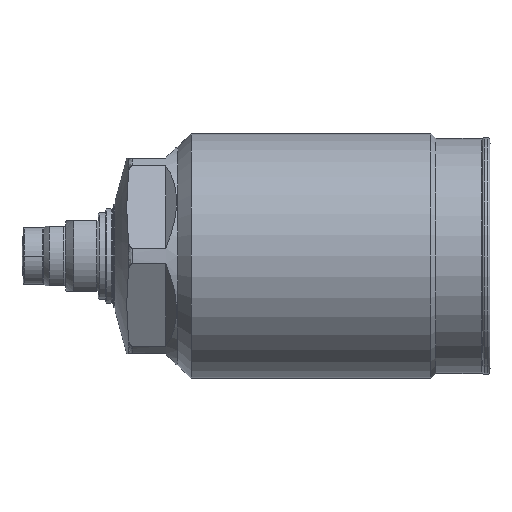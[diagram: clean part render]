
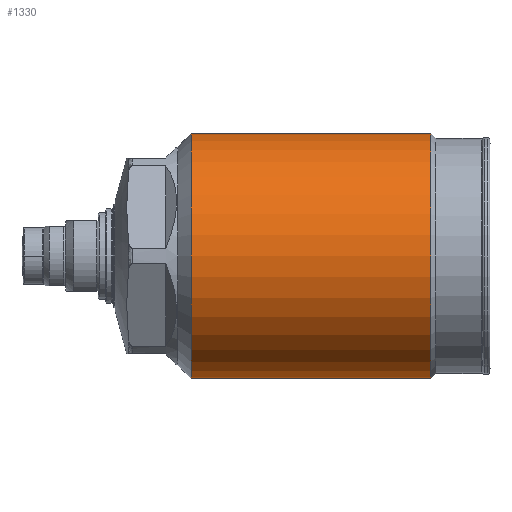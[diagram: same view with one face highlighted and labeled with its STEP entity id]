
A CAD part, left-side view. The second image highlights one B-rep face of the part: STEP entity #1330.
In plain terms, the highlighted cylindrical face has radius 22.5 mm (diameter 45 mm), a partial arc.
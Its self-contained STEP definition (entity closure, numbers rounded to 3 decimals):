
#906=CIRCLE('',#6744,22.5);
#907=CIRCLE('',#6746,22.5);
#1330=ADVANCED_FACE('',(#1789),#1565,.T.);
#1565=CYLINDRICAL_SURFACE('',#6747,22.5);
#1789=FACE_OUTER_BOUND('',#2213,.T.);
#2213=EDGE_LOOP('',(#4002,#4003,#4004,#4005));
#2702=LINE('',#10932,#3034);
#2703=LINE('',#10936,#3035);
#3034=VECTOR('',#8430,1.);
#3035=VECTOR('',#8433,1.);
#4002=ORIENTED_EDGE('',*,*,#5910,.T.);
#4003=ORIENTED_EDGE('',*,*,#5912,.F.);
#4004=ORIENTED_EDGE('',*,*,#5913,.F.);
#4005=ORIENTED_EDGE('',*,*,#5914,.T.);
#5228=VERTEX_POINT('',#10927);
#5229=VERTEX_POINT('',#10929);
#5230=VERTEX_POINT('',#10933);
#5231=VERTEX_POINT('',#10935);
#5910=EDGE_CURVE('',#5229,#5228,#906,.T.);
#5912=EDGE_CURVE('',#5230,#5228,#2702,.T.);
#5913=EDGE_CURVE('',#5231,#5230,#907,.T.);
#5914=EDGE_CURVE('',#5231,#5229,#2703,.T.);
#6744=AXIS2_PLACEMENT_3D('',#10928,#8425,#8426);
#6746=AXIS2_PLACEMENT_3D('',#10934,#8431,#8432);
#6747=AXIS2_PLACEMENT_3D('',#10937,#8434,#8435);
#8425=DIRECTION('',(0.,-1.,0.));
#8426=DIRECTION('',(0.,0.,-1.));
#8430=DIRECTION('',(0.,1.,0.));
#8431=DIRECTION('',(0.,-1.,0.));
#8432=DIRECTION('',(0.,0.,-1.));
#8433=DIRECTION('',(0.,1.,0.));
#8434=DIRECTION('',(0.,-1.,0.));
#8435=DIRECTION('',(0.,0.,1.));
#10927=CARTESIAN_POINT('',(0.,62.023,22.5));
#10928=CARTESIAN_POINT('',(0.,62.023,0.));
#10929=CARTESIAN_POINT('',(0.,62.023,-22.5));
#10932=CARTESIAN_POINT('',(0.,0.,22.5));
#10933=CARTESIAN_POINT('',(0.,18.023,22.5));
#10934=CARTESIAN_POINT('',(0.,18.023,0.));
#10935=CARTESIAN_POINT('',(0.,18.023,-22.5));
#10936=CARTESIAN_POINT('',(0.,0.,-22.5));
#10937=CARTESIAN_POINT('',(0.,0.,0.));
